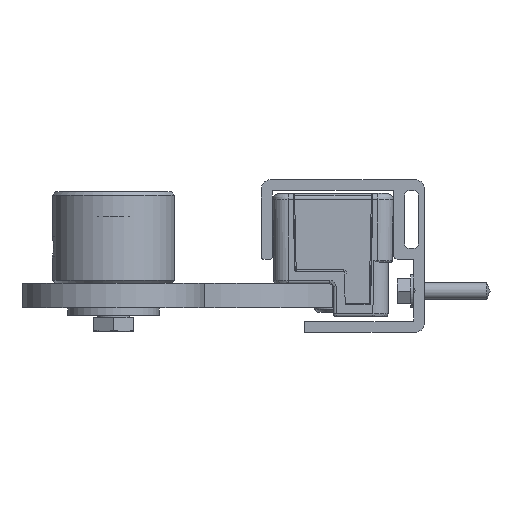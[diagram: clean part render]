
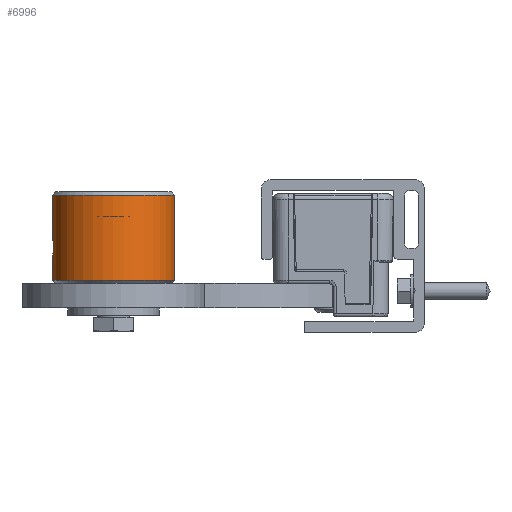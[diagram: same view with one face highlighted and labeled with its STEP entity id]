
A CAD part, left-side view. The second image highlights one B-rep face of the part: STEP entity #6996.
In plain terms, the highlighted cylindrical face has radius 20 mm (diameter 40 mm), a full revolution.
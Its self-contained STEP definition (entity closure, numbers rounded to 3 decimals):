
#294=B_SPLINE_CURVE_WITH_KNOTS('',3,(#11108,#11109,#11110,#11111,#11112,
#11113,#11114,#11115,#11116,#11117,#11118),.UNSPECIFIED.,.T.,.F.,(1,1,1,
1,1,1,1,1,1,1,1,1,1,1,1),(-0.008,-0.005,-0.003,
0.,0.003,0.005,0.008,
0.01,0.013,0.016,0.018,
0.021,0.023,0.026,0.029),
 .UNSPECIFIED.);
#530=CYLINDRICAL_SURFACE('',#7866,20.);
#1609=ORIENTED_EDGE('',*,*,#3715,.T.);
#1610=ORIENTED_EDGE('',*,*,#3716,.T.);
#1611=ORIENTED_EDGE('',*,*,#3717,.T.);
#3715=EDGE_CURVE('',#4773,#4773,#294,.T.);
#3716=EDGE_CURVE('',#4774,#4774,#5401,.F.);
#3717=EDGE_CURVE('',#4775,#4775,#5402,.T.);
#4773=VERTEX_POINT('',#11119);
#4774=VERTEX_POINT('',#11121);
#4775=VERTEX_POINT('',#11123);
#5401=CIRCLE('',#7867,20.);
#5402=CIRCLE('',#7868,20.);
#5803=EDGE_LOOP('',(#1609));
#5804=EDGE_LOOP('',(#1610));
#5805=EDGE_LOOP('',(#1611));
#6337=FACE_BOUND('',#5803,.T.);
#6338=FACE_BOUND('',#5804,.T.);
#6339=FACE_BOUND('',#5805,.T.);
#6996=ADVANCED_FACE('',(#6337,#6338,#6339),#530,.T.);
#7866=AXIS2_PLACEMENT_3D('',#11107,#8831,#8832);
#7867=AXIS2_PLACEMENT_3D('',#11120,#8833,#8834);
#7868=AXIS2_PLACEMENT_3D('',#11122,#8835,#8836);
#8831=DIRECTION('',(-1.,0.,0.));
#8832=DIRECTION('',(0.,0.,1.));
#8833=DIRECTION('',(-1.,0.,0.));
#8834=DIRECTION('',(0.,0.,1.));
#8835=DIRECTION('',(-1.,0.,0.));
#8836=DIRECTION('',(0.,0.,1.));
#11107=CARTESIAN_POINT('',(15.,0.,0.));
#11108=CARTESIAN_POINT('',(-5.602,2.607,-19.862));
#11109=CARTESIAN_POINT('',(-6.684,-0.001,-20.069));
#11110=CARTESIAN_POINT('',(-5.603,-2.605,-19.862));
#11111=CARTESIAN_POINT('',(-3.003,-3.683,-19.652));
#11112=CARTESIAN_POINT('',(-0.396,-2.605,-19.862));
#11113=CARTESIAN_POINT('',(0.682,-0.001,-20.069));
#11114=CARTESIAN_POINT('',(-0.393,2.601,-19.862));
#11115=CARTESIAN_POINT('',(-2.997,3.683,-19.652));
#11116=CARTESIAN_POINT('',(-5.602,2.607,-19.862));
#11117=CARTESIAN_POINT('',(-6.684,-0.001,-20.069));
#11118=CARTESIAN_POINT('',(-5.603,-2.605,-19.862));
#11119=CARTESIAN_POINT('',(-6.324,0.,-20.));
#11120=CARTESIAN_POINT('',(-14.,0.,0.));
#11121=CARTESIAN_POINT('',(-14.,0.,20.));
#11122=CARTESIAN_POINT('',(14.,0.,0.));
#11123=CARTESIAN_POINT('',(14.,0.,20.));
